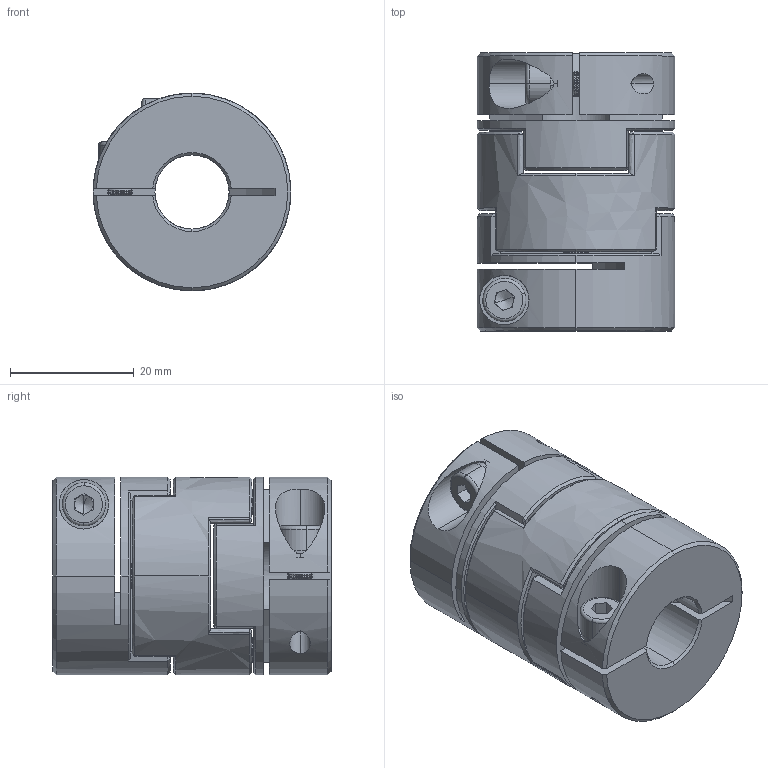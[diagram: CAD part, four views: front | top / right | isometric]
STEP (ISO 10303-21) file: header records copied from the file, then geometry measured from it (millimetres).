
FILE_DESCRIPTION (( 'STEP AP203' ), '1' );
FILE_NAME ('LZ-B-D32L45-12-12.STEP', '2021-10-29T06:47:28', ( '' ), ( '' ), 'SwSTEP 2.0', 'SolidWorks 2018', '' );
FILE_SCHEMA (( 'CONFIG_CONTROL_DESIGN' ));
Length unit declared in the file: millimetre
Products named in the file (1): LZ-B-D32L45-12-12
Bounding box: 32 x 45 x 32 mm (x, y, z)
Volume: 28118 mm3; surface area: 13126.6 mm2
Topology: 1 solids, 1 shells, 356 faces, 856 edges, 498 vertices
Faces by surface type: cone 118, cylinder 92, plane 84, bspline 54, torus 8
Entity records: 11145 total; most frequent: CARTESIAN_POINT 3197, ORIENTED_EDGE 1704, DIRECTION 1578, EDGE_CURVE 852, AXIS2_PLACEMENT_3D 619, VERTEX_POINT 498, EDGE_LOOP 382, ADVANCED_FACE 356
